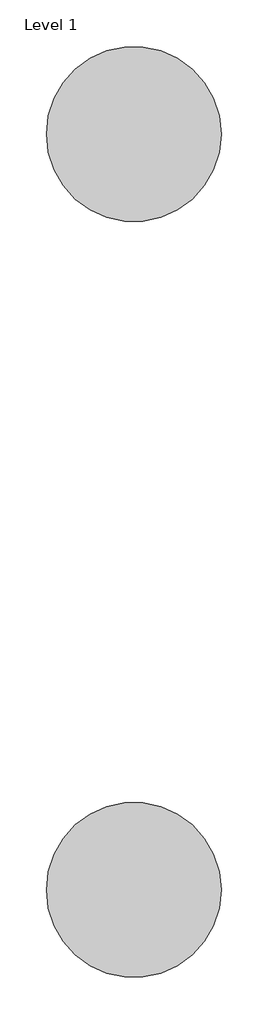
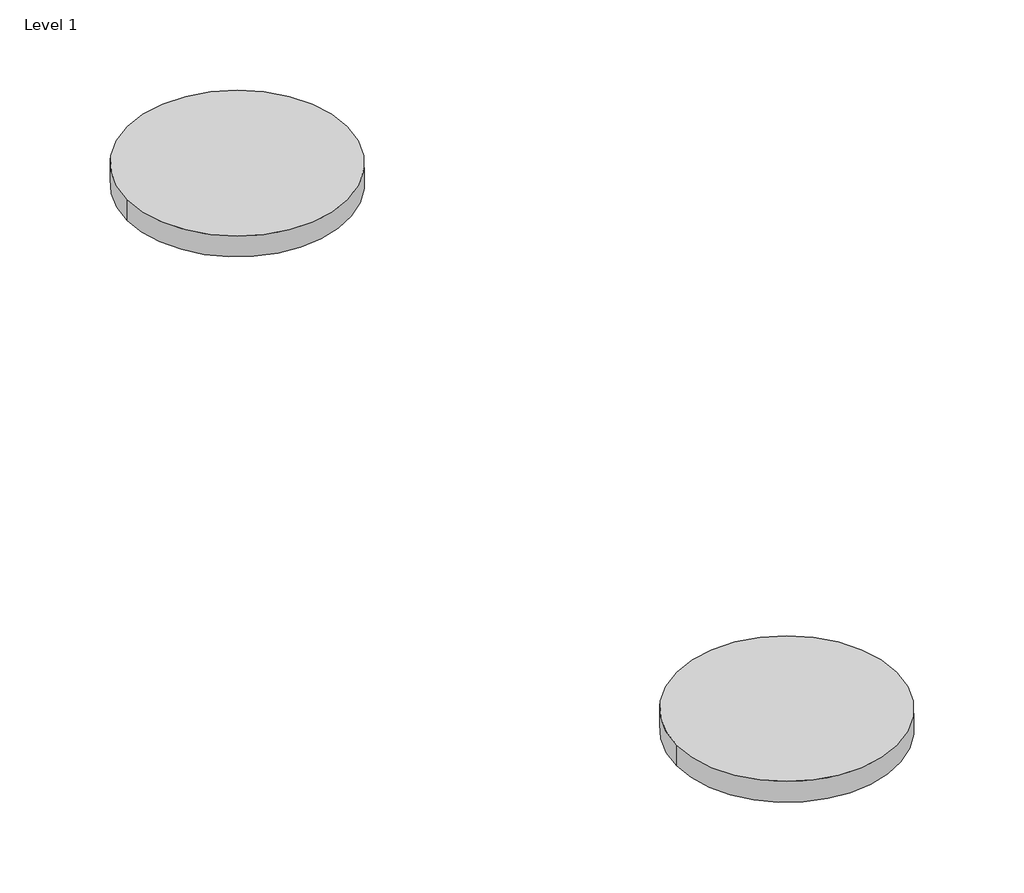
# One storey, incomplete: 2 proxies.
"""IFC4 building model written with IfcOpenShell, lengths in millimetres."""

import ifcopenshell
import ifcopenshell.guid

model = None  # the IFC model being written
_history = None  # IfcOwnerHistory: only IFC2X3 demands one
_inside = {}  # id of a spatial element -> (the spatial element, [elements in it])
_under = {}  # id of a project, library or spatial element -> (it, [spatial elements below it])
_declared = {}  # id of a project -> (the project, [libraries it declares])
_typed = {}  # id of a type object -> (the type object, [elements of that type])
_made_of = {}  # id of a material, layer set ... -> (it, [elements and type objects made of it])


def new_model(schema):
    """Start an empty IFC model of exactly this schema.

    Asked for "IFC4X3", IfcOpenShell would pick the latest addendum, in which some entities
    have other attributes; the version numbers below select the first issue.
    IFC2X3 requires an IfcOwnerHistory on every rooted entity: one is made here for all.
    """
    global model, _history
    if schema == "IFC4X3":
        model = ifcopenshell.file(schema_version=(4, 3, 0, 0))
    else:
        model = ifcopenshell.file(schema=schema)
    _inside.clear()
    _under.clear()
    _declared.clear()
    _typed.clear()
    _made_of.clear()
    _history = None
    if model.schema == "IFC2X3":
        org = make("IfcOrganization", Name="unknown")
        user = make(
            "IfcPersonAndOrganization",
            ThePerson=make("IfcPerson", FamilyName="unknown"),
            TheOrganization=org,
        )
        app = make(
            "IfcApplication",
            ApplicationDeveloper=org,
            Version="unknown",
            ApplicationFullName="unknown",
            ApplicationIdentifier="unknown",
        )
        _history = make(
            "IfcOwnerHistory",
            OwningUser=user,
            OwningApplication=app,
            ChangeAction="ADDED",
            CreationDate=0,
        )
    return model


def make(cls, **values):
    """One entity of the class cls with the attributes given. An attribute that is None is left unset."""
    return model.create_entity(
        cls, **{name: value for name, value in values.items() if value is not None}
    )


def rooted(cls, **values):
    """An entity with a GlobalId (a new one), such as an element, a storey or a relation."""
    return make(cls, GlobalId=ifcopenshell.guid.new(), OwnerHistory=_history, **values)


def si_unit(unit_type, name, prefix=None):
    """IfcSIUnit, for example si_unit("LENGTHUNIT", "METRE", prefix="MILLI")."""
    return make("IfcSIUnit", UnitType=unit_type, Prefix=prefix, Name=name)


def assignment(units):
    """IfcUnitAssignment: the units of a project."""
    return None if units is None else make("IfcUnitAssignment", Units=units)


def point(xyz):
    """IfcCartesianPoint."""
    return None if xyz is None else make("IfcCartesianPoint", Coordinates=xyz)


def direction(xyz):
    """IfcDirection."""
    return None if xyz is None else make("IfcDirection", DirectionRatios=xyz)


def frame(location, z_axis=None, x_axis=None):
    """IfcAxis2Placement3D, a coordinate frame: its origin and axes. An axis left out is left unset."""
    return make(
        "IfcAxis2Placement3D",
        Location=point(location),
        Axis=direction(z_axis),
        RefDirection=direction(x_axis),
    )


def frame_2d(location, x_axis=None):
    """IfcAxis2Placement2D, a coordinate frame in the plane: its origin and x axis."""
    return make(
        "IfcAxis2Placement2D", Location=point(location), RefDirection=direction(x_axis)
    )


def origin():
    """The frame at (0, 0, 0) with its axes left unset."""
    return frame((0.0, 0.0, 0.0))


def origin_with_axes():
    """The frame at (0, 0, 0) with the z axis (0, 0, 1) and the x axis (1, 0, 0) written out."""
    return frame((0.0, 0.0, 0.0), z_axis=(0.0, 0.0, 1.0), x_axis=(1.0, 0.0, 0.0))


def origin_2d():
    """The frame at (0, 0) in the plane with its x axis left unset."""
    return frame_2d((0.0, 0.0))


def place(relative_to, where):
    """IfcLocalPlacement: puts the frame where relative to a parent placement (None: the world)."""
    return make(
        "IfcLocalPlacement", PlacementRelTo=relative_to, RelativePlacement=where
    )


def context(
    kind, dimensions, precision=None, world=None, true_north=None, identifier=None
):
    """IfcGeometricRepresentationContext, for example the 3D "Model" context."""
    return make(
        "IfcGeometricRepresentationContext",
        ContextIdentifier=identifier,
        ContextType=kind,
        CoordinateSpaceDimension=dimensions,
        Precision=precision,
        WorldCoordinateSystem=world,
        TrueNorth=true_north,
    )


def project(units=None, contexts=None):
    """IfcProject with its units and contexts."""
    return rooted(
        "IfcProject",
        Name="project",
        RepresentationContexts=contexts,
        UnitsInContext=assignment(units),
    )


def spatial(cls, under=None, at=None, **own):
    """A site, building, storey or space (cls), placed at a placement, below another one or the project."""
    s = rooted(cls, ObjectPlacement=at, **own)
    if under is not None:
        _under.setdefault(under.id(), (under, []))[1].append(s)
    return s


def circle_curve(where, radius):
    """IfcCircle in the frame where."""
    return make("IfcCircle", Position=where, Radius=radius)


def trimmed(basis, trim1, trim2, sense, master):
    """IfcTrimmedCurve: the piece of a basis curve between two trims."""
    return make(
        "IfcTrimmedCurve",
        BasisCurve=basis,
        Trim1=trim1,
        Trim2=trim2,
        SenseAgreement=sense,
        MasterRepresentation=master,
    )


def segment(curve, same_sense, transition):
    """IfcCompositeCurveSegment."""
    return make(
        "IfcCompositeCurveSegment",
        Transition=transition,
        SameSense=same_sense,
        ParentCurve=curve,
    )


def composite_curve(segments, self_intersect=None):
    """IfcCompositeCurve: segments joined end to end."""
    return make("IfcCompositeCurve", Segments=segments, SelfIntersect=self_intersect)


def outline(outer, holes=None, kind="AREA"):
    """IfcArbitraryClosedProfileDef: a profile drawn as a closed curve; with holes, ...WithVoids."""
    if holes is None:
        return make("IfcArbitraryClosedProfileDef", ProfileType=kind, OuterCurve=outer)
    return make(
        "IfcArbitraryProfileDefWithVoids",
        ProfileType=kind,
        OuterCurve=outer,
        InnerCurves=holes,
    )


def extrude(swept, where, along, depth):
    """IfcExtrudedAreaSolid: the profile swept, set in the frame where, extruded along a direction by depth."""
    return make(
        "IfcExtrudedAreaSolid",
        SweptArea=swept,
        Position=where,
        ExtrudedDirection=direction(along),
        Depth=depth,
    )


def shape(context_of_items, identifier, shape_type, items):
    """IfcShapeRepresentation: the items that make up one representation, for example the "Body"."""
    return make(
        "IfcShapeRepresentation",
        ContextOfItems=context_of_items,
        RepresentationIdentifier=identifier,
        RepresentationType=shape_type,
        Items=items,
    )


def source(mapping_origin, context_of_items, identifier, shape_type, items):
    """IfcRepresentationMap: a shape defined once, which mapped items show again and again."""
    return make(
        "IfcRepresentationMap",
        MappingOrigin=mapping_origin,
        MappedRepresentation=shape(context_of_items, identifier, shape_type, items),
    )


def transform(
    local_origin,
    x_axis=None,
    y_axis=None,
    z_axis=None,
    scale=None,
    scale2=None,
    scale3=None,
    uniform=True,
):
    """IfcCartesianTransformationOperator3D, or its non-uniform kind. x_axis, y_axis, z_axis: its Axis1, 2, 3."""
    if uniform:
        return make(
            "IfcCartesianTransformationOperator3D",
            Axis1=direction(x_axis),
            Axis2=direction(y_axis),
            LocalOrigin=point(local_origin),
            Scale=scale,
            Axis3=direction(z_axis),
        )
    return make(
        "IfcCartesianTransformationOperator3DnonUniform",
        Axis1=direction(x_axis),
        Axis2=direction(y_axis),
        LocalOrigin=point(local_origin),
        Scale=scale,
        Axis3=direction(z_axis),
        Scale2=scale2,
        Scale3=scale3,
    )


def mapped(mapping_source, mapping_target):
    """IfcMappedItem: shows the shape of a source again, moved by a transform."""
    return make(
        "IfcMappedItem", MappingSource=mapping_source, MappingTarget=mapping_target
    )


def made_of(thing, what):
    """Note that an element or type object is made of a material, layer set ...; save() writes the relation."""
    if what is not None:
        _made_of.setdefault(what.id(), (what, []))[1].append(thing)
    return thing


def element(
    cls,
    number,
    at=None,
    inside=None,
    cuts=None,
    type_object=None,
    material=None,
    context=None,
    identifier="Body",
    shape_type=None,
    held_by="IfcProductDefinitionShape",
    body=None,
    shapes=None,
    **own,
):
    """One element of the class cls, such as IfcWall. Its Tag is "e" and its number.

    at: its placement. inside: the storey or other place that contains it. cuts: it is an
    opening in that element (IfcRelVoidsElement). A single representation is given by context,
    identifier, shape_type and body (its items); several are given by shapes. held_by: the class
    of the entity that holds the representations. save() writes the other relations.
    """
    e = rooted(cls, Tag="e%d" % number, ObjectPlacement=at, **own)
    if body is not None:
        shapes = [shape(context, identifier, shape_type, body)]
    if shapes is not None:
        e.Representation = make(held_by, Representations=shapes)
    if inside is not None:
        _inside.setdefault(inside.id(), (inside, []))[1].append(e)
    if cuts is not None:
        rooted(
            "IfcRelVoidsElement", RelatingBuildingElement=cuts, RelatedOpeningElement=e
        )
    if type_object is not None:
        _typed.setdefault(type_object.id(), (type_object, []))[1].append(e)
    return made_of(e, material)


def aggregate(whole, parts):
    """IfcRelAggregates: a whole, such as a stair, and the parts it consists of."""
    return rooted("IfcRelAggregates", RelatingObject=whole, RelatedObjects=parts)


def save(model, path):
    """Write the relations noted so far, then the file.

    IfcRelAggregates (storeys below a building ...), IfcRelContainedInSpatialStructure (elements
    in a storey), IfcRelDefinesByType, IfcRelAssociatesMaterial and IfcRelDeclares: one each for
    every whole, place, type object, material and project.
    """
    for whole, parts in _under.values():
        aggregate(whole, parts)
    for where, things in _inside.values():
        rooted(
            "IfcRelContainedInSpatialStructure",
            RelatedElements=things,
            RelatingStructure=where,
        )
    for kind, things in _typed.values():
        rooted("IfcRelDefinesByType", RelatedObjects=things, RelatingType=kind)
    for what, things in _made_of.values():
        rooted("IfcRelAssociatesMaterial", RelatedObjects=things, RelatingMaterial=what)
    for by, libraries in _declared.values():
        rooted("IfcRelDeclares", RelatingContext=by, RelatedDefinitions=libraries)
    model.write(path)


def materialmodel_materialmodel_ac00f72a(model_context):
    return source(origin(), model_context, "Body", "SweptSolid", [
        extrude(outline(composite_curve([segment(trimmed(circle_curve(origin_2d(), 100.0), [point((-100.0, 0.0))], [point((100.0, 0.0))], False, "CARTESIAN"), True, "CONTINUOUS"), segment(trimmed(circle_curve(origin_2d(), 100.0), [point((100.0, 0.0))], [point((-100.0, 0.0))], False, "CARTESIAN"), True, "CONTINUOUS")], self_intersect=False)), origin_with_axes(), (0.0, 0.0, 1.0), 20.0),
    ])


model = new_model("IFC4")

# Units and contexts
model_context = context("Model", 3, world=origin())
ifc_project = project(units=[si_unit("LENGTHUNIT", "METRE", prefix="MILLI")], contexts=[model_context])

# Site, building, storey
site = spatial("IfcSite", under=ifc_project)
building = spatial("IfcBuilding", under=site)
storey = spatial("IfcBuildingStorey", under=building, Name="Level 1", Elevation=0.0)

# Proxies
placement = place(None, origin())
materialmodel_materialmodel_shape = materialmodel_materialmodel_ac00f72a(model_context)
element("IfcBuildingElementProxy", 1, Name="MaterialModel : MaterialModel", ObjectType="MaterialModel : MaterialModel", at=placement, inside=storey, context=model_context, shape_type="MappedRepresentation", body=[
    mapped(materialmodel_materialmodel_shape, transform((-11701.407422, 5879.9835986, 0.0), x_axis=(1.0, 0.0, 0.0), y_axis=(0.0, 1.0, 0.0), z_axis=(0.0, 0.0, 1.0))),
])
element("IfcBuildingElementProxy", 2, Name="MaterialModel : MaterialModel", ObjectType="MaterialModel : MaterialModel", at=placement, inside=storey, context=model_context, shape_type="MappedRepresentation", body=[
    mapped(materialmodel_materialmodel_shape, transform((-11701.407422, 6744.1044049, 0.0), x_axis=(1.0, 0.0, 0.0), y_axis=(0.0, 1.0, 0.0), z_axis=(0.0, 0.0, 1.0))),
])

save(model, "model.ifc")
